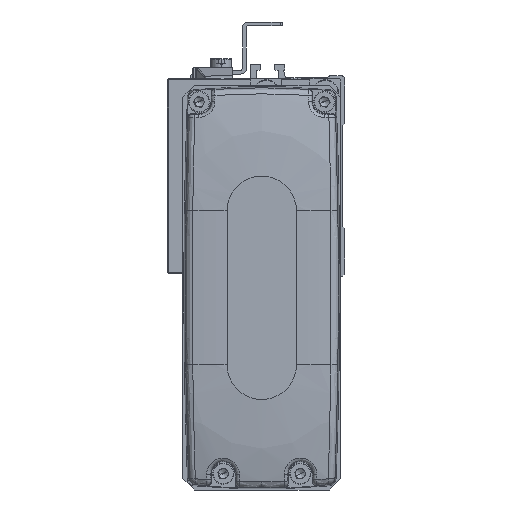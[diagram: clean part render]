
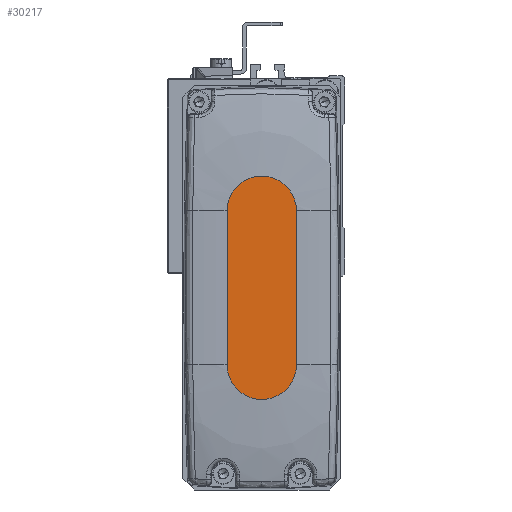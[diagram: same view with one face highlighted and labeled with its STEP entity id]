
A CAD part, left-side view. The second image highlights one B-rep face of the part: STEP entity #30217.
In plain terms, the highlighted planar face has unit normal (-1, 0, 0).
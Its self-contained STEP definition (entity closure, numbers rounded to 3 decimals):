
#1039 = AXIS2_PLACEMENT_3D ( 'NONE', #31742, #28646, #43091 ) ;
#1289 = CARTESIAN_POINT ( 'NONE',  ( -57., 12.5, -9. ) ) ;
#2372 = DIRECTION ( 'NONE',  ( 1., 0., 0. ) ) ;
#6165 = LINE ( 'NONE', #19998, #16008 ) ;
#6317 = CIRCLE ( 'NONE', #13922, 9. ) ;
#6387 = CIRCLE ( 'NONE', #1039, 9. ) ;
#7246 = ORIENTED_EDGE ( 'NONE', *, *, #23225, .F. ) ;
#8417 = VERTEX_POINT ( 'NONE', #34122 ) ;
#13922 = AXIS2_PLACEMENT_3D ( 'NONE', #34536, #44950, #19810 ) ;
#15412 = CARTESIAN_POINT ( 'NONE',  ( -57., 30.5, -9. ) ) ;
#15778 = CARTESIAN_POINT ( 'NONE',  ( -57., 12.5, -49. ) ) ;
#16008 = VECTOR ( 'NONE', #24491, 1000. ) ;
#17541 = AXIS2_PLACEMENT_3D ( 'NONE', #34948, #2372, #45840 ) ;
#19211 = VERTEX_POINT ( 'NONE', #15778 ) ;
#19810 = DIRECTION ( 'NONE',  ( 0., 1., 0. ) ) ;
#19998 = CARTESIAN_POINT ( 'NONE',  ( -57., 30.5, -49. ) ) ;
#21172 = ORIENTED_EDGE ( 'NONE', *, *, #42213, .F. ) ;
#21850 = ORIENTED_EDGE ( 'NONE', *, *, #28466, .F. ) ;
#23225 = EDGE_CURVE ( 'NONE', #19211, #8417, #6387, .T. ) ;
#23488 = VECTOR ( 'NONE', #34576, 1000. ) ;
#24265 = PLANE ( 'NONE',  #17541 ) ;
#24491 = DIRECTION ( 'NONE',  ( 0., 0., 1. ) ) ;
#24640 = ORIENTED_EDGE ( 'NONE', *, *, #30922, .F. ) ;
#28466 = EDGE_CURVE ( 'NONE', #37467, #19211, #38139, .T. ) ;
#28646 = DIRECTION ( 'NONE',  ( 1., 0., 0. ) ) ;
#30217 = ADVANCED_FACE ( 'NONE', ( #38506 ), #24265, .F. ) ;
#30533 = CARTESIAN_POINT ( 'NONE',  ( -57., 12.5, -9. ) ) ;
#30922 = EDGE_CURVE ( 'NONE', #40536, #37467, #6317, .T. ) ;
#31742 = CARTESIAN_POINT ( 'NONE',  ( -57., 21.5, -49. ) ) ;
#34122 = CARTESIAN_POINT ( 'NONE',  ( -57., 30.5, -49. ) ) ;
#34536 = CARTESIAN_POINT ( 'NONE',  ( -57., 21.5, -9. ) ) ;
#34576 = DIRECTION ( 'NONE',  ( 0., 0., -1. ) ) ;
#34948 = CARTESIAN_POINT ( 'NONE',  ( -57., 668.266, 37.766 ) ) ;
#37467 = VERTEX_POINT ( 'NONE', #1289 ) ;
#38139 = LINE ( 'NONE', #30533, #23488 ) ;
#38506 = FACE_OUTER_BOUND ( 'NONE', #46915, .T. ) ;
#40536 = VERTEX_POINT ( 'NONE', #15412 ) ;
#42213 = EDGE_CURVE ( 'NONE', #8417, #40536, #6165, .T. ) ;
#43091 = DIRECTION ( 'NONE',  ( 0., 0., -1. ) ) ;
#44950 = DIRECTION ( 'NONE',  ( 1., 0., 0. ) ) ;
#45840 = DIRECTION ( 'NONE',  ( 0., -1., 0. ) ) ;
#46915 = EDGE_LOOP ( 'NONE', ( #7246, #21850, #24640, #21172 ) ) ;
